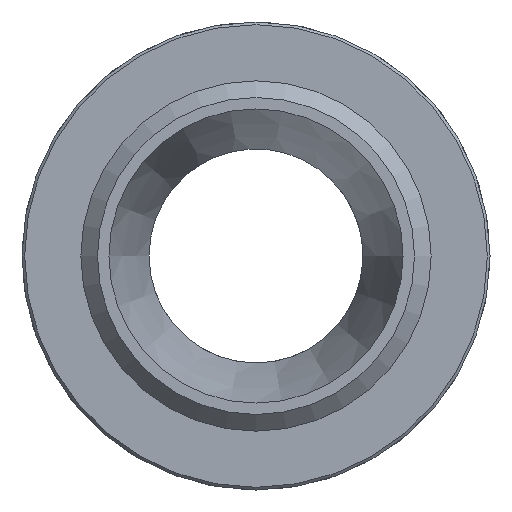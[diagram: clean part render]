
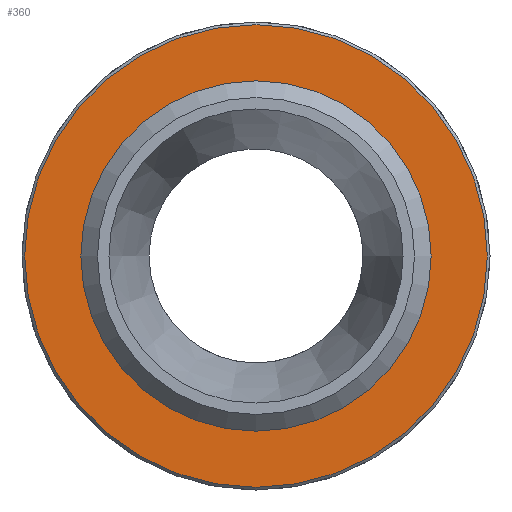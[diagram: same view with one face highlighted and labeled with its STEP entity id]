
A CAD part, front view. The second image highlights one B-rep face of the part: STEP entity #360.
In plain terms, the highlighted planar face has unit normal (0, -1, 0).
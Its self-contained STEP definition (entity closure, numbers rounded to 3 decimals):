
#15=FACE_BOUND('',#59,.T.);
#20=PLANE('',#415);
#36=FACE_OUTER_BOUND('',#58,.T.);
#58=EDGE_LOOP('',(#257));
#59=EDGE_LOOP('',(#258,#259));
#114=CIRCLE('',#402,12.);
#115=CIRCLE('',#403,12.);
#123=CIRCLE('',#416,17.3);
#147=VERTEX_POINT('',#589);
#148=VERTEX_POINT('',#590);
#156=VERTEX_POINT('',#616);
#181=EDGE_CURVE('',#147,#148,#114,.T.);
#182=EDGE_CURVE('',#148,#147,#115,.T.);
#194=EDGE_CURVE('',#156,#156,#123,.T.);
#257=ORIENTED_EDGE('',*,*,#194,.F.);
#258=ORIENTED_EDGE('',*,*,#181,.T.);
#259=ORIENTED_EDGE('',*,*,#182,.T.);
#360=ADVANCED_FACE('',(#36,#15),#20,.T.);
#402=AXIS2_PLACEMENT_3D('',#591,#466,#467);
#403=AXIS2_PLACEMENT_3D('',#592,#468,#469);
#415=AXIS2_PLACEMENT_3D('',#615,#496,#497);
#416=AXIS2_PLACEMENT_3D('',#617,#498,#499);
#466=DIRECTION('center_axis',(0.,1.,0.));
#467=DIRECTION('ref_axis',(1.,0.,0.));
#468=DIRECTION('center_axis',(0.,1.,0.));
#469=DIRECTION('ref_axis',(1.,0.,0.));
#496=DIRECTION('center_axis',(0.,-1.,0.));
#497=DIRECTION('ref_axis',(0.,0.,-1.));
#498=DIRECTION('center_axis',(0.,1.,0.));
#499=DIRECTION('ref_axis',(1.,0.,0.));
#589=CARTESIAN_POINT('',(-12.,12.,0.));
#590=CARTESIAN_POINT('',(12.,12.,0.));
#591=CARTESIAN_POINT('Origin',(0.,12.,0.));
#592=CARTESIAN_POINT('Origin',(0.,12.,0.));
#615=CARTESIAN_POINT('Origin',(-17.5,12.,0.));
#616=CARTESIAN_POINT('',(-17.3,12.,0.));
#617=CARTESIAN_POINT('Origin',(0.,12.,0.));
